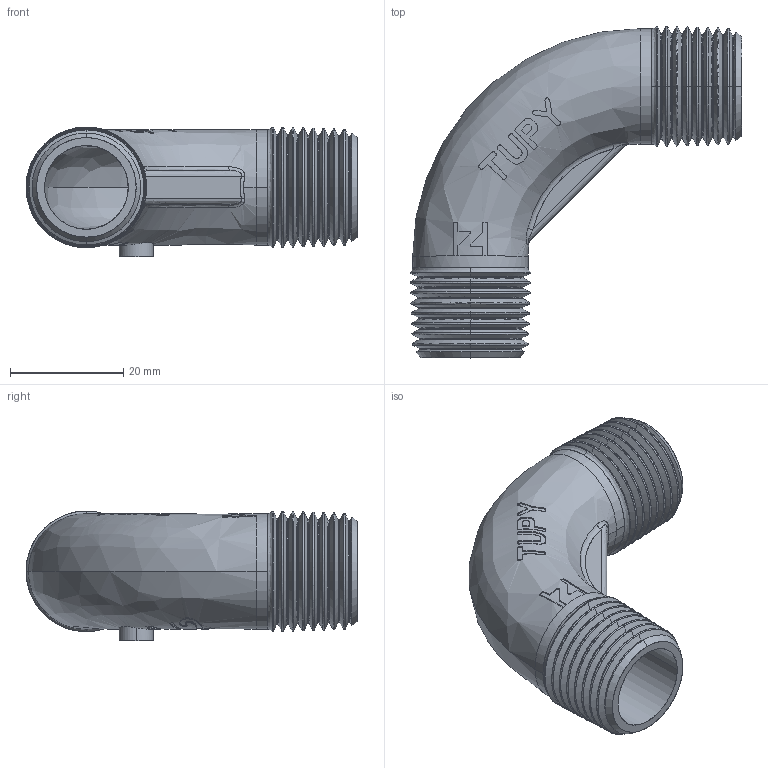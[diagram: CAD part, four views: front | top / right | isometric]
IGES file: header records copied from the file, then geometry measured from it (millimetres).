
Start section: SolidWorks IGES file using analytic representation for surfaces
Global section: file name: C:\Users\Joel Rosa\Desktop\Tubulação\12-25-OK\12-25-004.IGS; native system: SolidWorks 2011; preprocessor: SolidWorks 2011; author: Joel Rosa; date: 121207.021328; units: millimetre
Bounding box: 58.67 x 58.67 x 22.97 mm (x, y, z)
Surface area: 10939.5 mm2 (no closed solid volume)
Topology: 0 solids, 0 shells, 311 faces, 2720 edges, 2720 vertices
Faces by surface type: bspline 224, revolution 87
